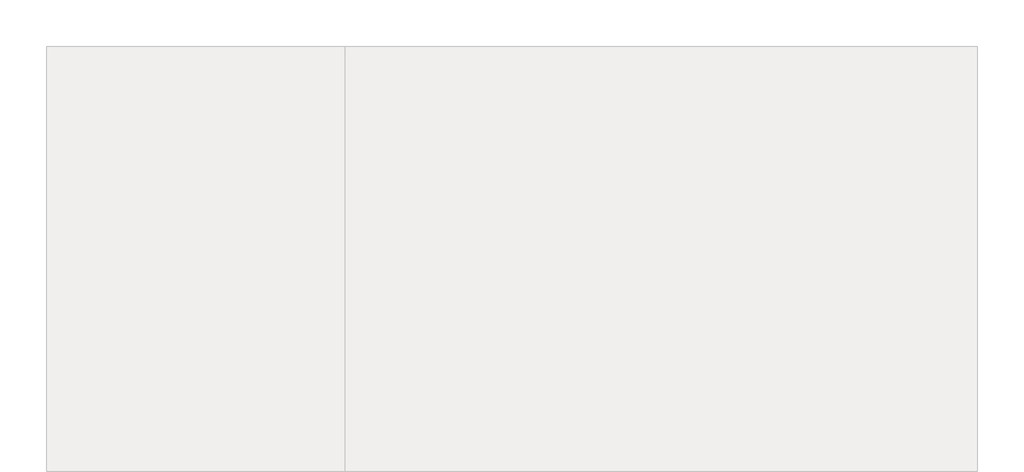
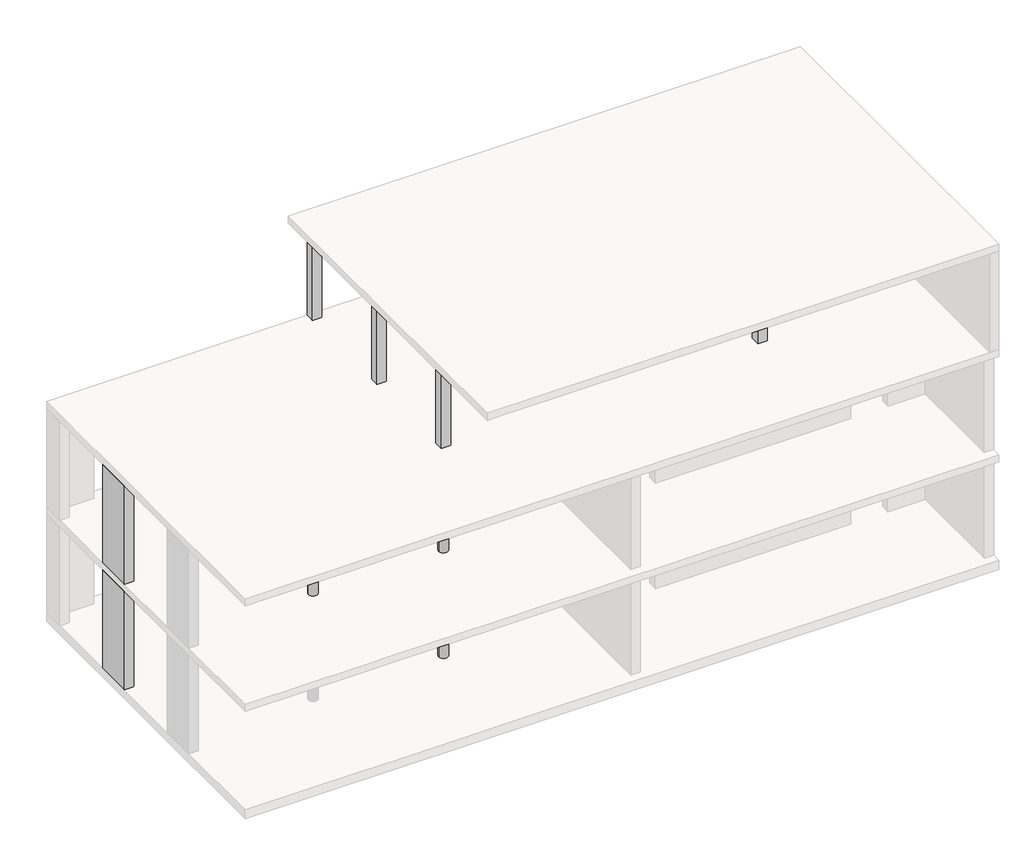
# Not in any storey, part 2 of 2: 19 columns, 10 beams.
"""IFC4 building model written with IfcOpenShell, lengths in millimetres."""

from ifc_helpers import new_model, si_unit, point, frame, frame_2d, origin, origin_with_axes, place, context, project, spatial, polyline, circle_curve, trimmed, segment, composite_curve, outline, extrude, faceted_brep, element, save
from ifc_brep_helpers import plane_surface, revolved_surface, advanced_brep

model = new_model("IFC4")

# Units and contexts
model_context = context("Model", 3, world=origin())
ifc_project = project(units=[si_unit("LENGTHUNIT", "METRE", prefix="MILLI")], contexts=[model_context])

# Site, building
site = spatial("IfcSite", under=ifc_project)
building = spatial("IfcBuilding", under=site)

# Beams
placement = place(None, origin())
element("IfcBeam", 1, ObjectType="STB Träger - rechteckig : STB 250 x 500", at=placement, inside=building, context=model_context, shape_type="AdvancedBrep", body=[
    advanced_brep(
    [(125.0, -3125.0, 2800.0), (125.0, -3125.0, 2500.0), (3500.0, -3125.0, 2500.0), (7000.0, -3125.0, 2500.0), (7000.0, -3125.0, 2800.0), (6875.0, -3000.0, 2500.0), (3625.0, -3000.0, 2500.0), (3500.0, -2875.0, 2500.0), (7000.0, -2875.0, 2500.0), (125.0, -2875.0, 2500.0), (125.0, -2875.0, 2800.0), (7000.0, -2875.0, 2800.0), (6875.0, -3000.0, 2800.0), (3375.0, -3000.0, 2500.0), (3375.0, -3000.0, 2800.0), (3625.0, -3000.0, 2800.0), (3500.0, -2875.0, 2800.0)],
    [
        (0, 1),
        (1, 2),
        (2, 3),
        (3, 4),
        (4, 0),
        (5, 3, circle_curve(frame((7000.0, -3000.0, 2500.0), z_axis=(0.0, 0.0, 1.0), x_axis=(1.0, 0.0, 0.0)), 125.0)),
        (2, 6, circle_curve(frame((3500.0, -3000.0, 2500.0), z_axis=(0.0, 0.0, 1.0), x_axis=(1.0, 0.0, 0.0)), 125.0)),
        (6, 7, circle_curve(frame((3500.0, -3000.0, 2500.0), z_axis=(0.0, 0.0, 1.0), x_axis=(1.0, 0.0, 0.0)), 125.0)),
        (7, 8),
        (8, 5, circle_curve(frame((7000.0, -3000.0, 2500.0), z_axis=(0.0, 0.0, 1.0), x_axis=(1.0, 0.0, 0.0)), 125.0)),
        (9, 10),
        (10, 11),
        (11, 8),
        (7, 9),
        (5, 12),
        (12, 4, circle_curve(frame((7000.0, -3000.0, 2800.0), z_axis=(0.0, 0.0, 1.0), x_axis=(1.0, 0.0, 0.0)), 125.0)),
        (11, 12, circle_curve(frame((7000.0, -3000.0, 2800.0), z_axis=(0.0, 0.0, 1.0), x_axis=(1.0, 0.0, 0.0)), 125.0)),
        (0, 10),
        (9, 1),
        (13, 14),
        (14, 15, circle_curve(frame((3500.0, -3000.0, 2800.0), z_axis=(0.0, 0.0, 1.0), x_axis=(1.0, 0.0, 0.0)), 125.0)),
        (15, 6),
        (2, 13, circle_curve(frame((3500.0, -3000.0, 2500.0), z_axis=(0.0, 0.0, -1.0), x_axis=(1.0, 0.0, 0.0)), 125.0)),
        (13, 7, circle_curve(frame((3500.0, -3000.0, 2500.0), z_axis=(0.0, 0.0, -1.0), x_axis=(1.0, 0.0, 0.0)), 125.0)),
        (15, 16, circle_curve(frame((3500.0, -3000.0, 2800.0), z_axis=(0.0, 0.0, 1.0), x_axis=(1.0, 0.0, 0.0)), 125.0)),
        (16, 14, circle_curve(frame((3500.0, -3000.0, 2800.0), z_axis=(0.0, 0.0, 1.0), x_axis=(1.0, 0.0, 0.0)), 125.0)),
    ],
    [
        plane_surface(frame((6862.3, -3125.0, 3000.0), z_axis=(0.0, -1.0, 0.0), x_axis=(-1.0, 0.0, 0.0))),
        plane_surface(frame((6862.3, -3125.0, 2500.0), z_axis=(0.0, 0.0, -1.0), x_axis=(-1.0, 0.0, 0.0))),
        plane_surface(frame((6862.3, -2875.0, 2500.0), z_axis=(0.0, 1.0, 0.0), x_axis=(-1.0, 0.0, 0.0))),
        revolved_surface(polyline([(7125.0, -3000.0, 2800.0), (7125.0, -3000.0, 2500.0)]), (7000.0, -3000.0, 0.0), (0.0, 0.0, 1.0)),
        plane_surface(frame((125.0, -3500.0, 2800.0), z_axis=(-1.0, 0.0, 0.0), x_axis=(0.0, 0.0, -1.0))),
        revolved_surface(polyline([(3625.0, -3000.0, 2800.0), (3625.0, -3000.0, 2500.0)]), (3500.0, -3000.0, 0.0), (0.0, 0.0, 1.0)),
        plane_surface(frame((20125.0, 125.0, 2800.0), z_axis=(0.0, 0.0, 1.0), x_axis=(0.0, -1.0, 0.0))),
    ],
    [
        (0, [[1, 2, 3, 4, 5]]),
        (1, [[6, -3, 7, 8, 9, 10]]),
        (2, [[11, 12, 13, -9, 14]]),
        (3, [[15, 16, -4, -6]]),
        (3, [[-15, -10, -13, 17]]),
        (4, [[-1, 18, -11, 19]]),
        (5, [[20, 21, 22, -7, 23]]),
        (5, [[-20, 24, -8, -22, 25, 26]]),
        (6, [[-5, -16, -17, -12, -18], [-21, -26, -25]]),
        (1, [[-19, -14, -24, -23, -2]]),
    ],
),
])
element("IfcBeam", 2, ObjectType="STB Träger - rechteckig : STB 250 x 500", at=placement, inside=building, context=model_context, shape_type="AdvancedBrep", body=[
    advanced_brep(
    [(7000.0, -3125.0, 2500.0), (10375.0, -3125.0, 2500.0), (10375.0, -3125.0, 2800.0), (7000.0, -3125.0, 2800.0), (7125.0, -3000.0, 2500.0), (7000.0, -2875.0, 2500.0), (10375.0, -2875.0, 2500.0), (7000.0, -2875.0, 2800.0), (10375.0, -2875.0, 2800.0), (7125.0, -3000.0, 2800.0)],
    [
        (0, 1),
        (1, 2),
        (2, 3),
        (3, 0),
        (0, 4, circle_curve(frame((7000.0, -3000.0, 2500.0), z_axis=(0.0, 0.0, 1.0), x_axis=(1.0, 0.0, 0.0)), 125.0)),
        (4, 5, circle_curve(frame((7000.0, -3000.0, 2500.0), z_axis=(0.0, 0.0, 1.0), x_axis=(1.0, 0.0, 0.0)), 125.0)),
        (5, 6),
        (6, 1),
        (5, 7),
        (7, 8),
        (8, 6),
        (9, 4),
        (3, 9, circle_curve(frame((7000.0, -3000.0, 2800.0), z_axis=(0.0, 0.0, 1.0), x_axis=(1.0, 0.0, 0.0)), 125.0)),
        (9, 7, circle_curve(frame((7000.0, -3000.0, 2800.0), z_axis=(0.0, 0.0, 1.0), x_axis=(1.0, 0.0, 0.0)), 125.0)),
        (8, 2),
    ],
    [
        plane_surface(frame((10362.3, -3125.0, 2750.0), z_axis=(0.0, -1.0, 0.0), x_axis=(0.0, 0.0, -1.0))),
        plane_surface(frame((10362.3, -3000.0, 2500.0), z_axis=(0.0, 0.0, -1.0), x_axis=(0.0, 1.0, 0.0))),
        plane_surface(frame((10362.3, -2875.0, 2750.0), z_axis=(0.0, 1.0, 0.0), x_axis=(0.0, 0.0, 1.0))),
        revolved_surface(polyline([(7125.0, -3000.0, 2800.0), (7125.0, -3000.0, 2500.0)]), (7000.0, -3000.0, 0.0), (0.0, 0.0, 1.0)),
        plane_surface(frame((10375.0, 0.0, 0.0), z_axis=(1.0, 0.0, 0.0), x_axis=(0.0, -1.0, 0.0))),
        plane_surface(frame((20125.0, 125.0, 2800.0), z_axis=(0.0, 0.0, 1.0), x_axis=(0.0, -1.0, 0.0))),
    ],
    [
        (0, [[1, 2, 3, 4]]),
        (1, [[5, 6, 7, 8, -1]]),
        (2, [[-7, 9, 10, 11]]),
        (3, [[12, -5, -4, 13]]),
        (3, [[-12, 14, -9, -6]]),
        (4, [[-2, -8, -11, 15]]),
        (5, [[-3, -15, -10, -14, -13]]),
    ],
),
])
element("IfcBeam", 3, ObjectType="STB Träger - rechteckig : STB 250 x 500", at=placement, inside=building, context=model_context, shape_type="AdvancedBrep", body=[
    advanced_brep(
    [(125.0, -6125.0, 2800.0), (125.0, -6125.0, 2500.0), (3500.0, -6125.0, 2500.0), (7000.0, -6125.0, 2500.0), (7000.0, -6125.0, 2800.0), (6875.0, -6000.0, 2500.0), (3625.0, -6000.0, 2500.0), (3500.0, -5875.0, 2500.0), (7000.0, -5875.0, 2500.0), (125.0, -5875.0, 2500.0), (125.0, -5875.0, 2800.0), (7000.0, -5875.0, 2800.0), (6875.0, -6000.0, 2800.0), (3375.0, -6000.0, 2500.0), (3375.0, -6000.0, 2800.0), (3625.0, -6000.0, 2800.0), (3500.0, -5875.0, 2800.0)],
    [
        (0, 1),
        (1, 2),
        (2, 3),
        (3, 4),
        (4, 0),
        (5, 3, circle_curve(frame((7000.0, -6000.0, 2500.0), z_axis=(0.0, 0.0, 1.0), x_axis=(1.0, 0.0, 0.0)), 125.0)),
        (2, 6, circle_curve(frame((3500.0, -6000.0, 2500.0), z_axis=(0.0, 0.0, 1.0), x_axis=(1.0, 0.0, 0.0)), 125.0)),
        (6, 7, circle_curve(frame((3500.0, -6000.0, 2500.0), z_axis=(0.0, 0.0, 1.0), x_axis=(1.0, 0.0, 0.0)), 125.0)),
        (7, 8),
        (8, 5, circle_curve(frame((7000.0, -6000.0, 2500.0), z_axis=(0.0, 0.0, 1.0), x_axis=(1.0, 0.0, 0.0)), 125.0)),
        (9, 10),
        (10, 11),
        (11, 8),
        (7, 9),
        (5, 12),
        (12, 4, circle_curve(frame((7000.0, -6000.0, 2800.0), z_axis=(0.0, 0.0, 1.0), x_axis=(1.0, 0.0, 0.0)), 125.0)),
        (11, 12, circle_curve(frame((7000.0, -6000.0, 2800.0), z_axis=(0.0, 0.0, 1.0), x_axis=(1.0, 0.0, 0.0)), 125.0)),
        (0, 10),
        (9, 1),
        (13, 14),
        (14, 15, circle_curve(frame((3500.0, -6000.0, 2800.0), z_axis=(0.0, 0.0, 1.0), x_axis=(1.0, 0.0, 0.0)), 125.0)),
        (15, 6),
        (2, 13, circle_curve(frame((3500.0, -6000.0, 2500.0), z_axis=(0.0, 0.0, -1.0), x_axis=(1.0, 0.0, 0.0)), 125.0)),
        (13, 7, circle_curve(frame((3500.0, -6000.0, 2500.0), z_axis=(0.0, 0.0, -1.0), x_axis=(1.0, 0.0, 0.0)), 125.0)),
        (15, 16, circle_curve(frame((3500.0, -6000.0, 2800.0), z_axis=(0.0, 0.0, 1.0), x_axis=(1.0, 0.0, 0.0)), 125.0)),
        (16, 14, circle_curve(frame((3500.0, -6000.0, 2800.0), z_axis=(0.0, 0.0, 1.0), x_axis=(1.0, 0.0, 0.0)), 125.0)),
    ],
    [
        plane_surface(frame((6862.3, -6125.0, 3000.0), z_axis=(0.0, -1.0, 0.0), x_axis=(-1.0, 0.0, 0.0))),
        plane_surface(frame((6862.3, -6125.0, 2500.0), z_axis=(0.0, 0.0, -1.0), x_axis=(-1.0, 0.0, 0.0))),
        plane_surface(frame((6862.3, -5875.0, 2500.0), z_axis=(0.0, 1.0, 0.0), x_axis=(-1.0, 0.0, 0.0))),
        revolved_surface(polyline([(7125.0, -6000.0, 2800.0), (7125.0, -6000.0, 2500.0)]), (7000.0, -6000.0, 0.0), (0.0, 0.0, 1.0)),
        plane_surface(frame((125.0, -6500.0, 2800.0), z_axis=(-1.0, 0.0, 0.0), x_axis=(0.0, 0.0, -1.0))),
        revolved_surface(polyline([(3625.0, -6000.0, 2800.0), (3625.0, -6000.0, 2500.0)]), (3500.0, -6000.0, 0.0), (0.0, 0.0, 1.0)),
        plane_surface(frame((20125.0, 125.0, 2800.0), z_axis=(0.0, 0.0, 1.0), x_axis=(0.0, -1.0, 0.0))),
    ],
    [
        (0, [[1, 2, 3, 4, 5]]),
        (1, [[6, -3, 7, 8, 9, 10]]),
        (2, [[11, 12, 13, -9, 14]]),
        (3, [[15, 16, -4, -6]]),
        (3, [[-15, -10, -13, 17]]),
        (4, [[-1, 18, -11, 19]]),
        (5, [[20, 21, 22, -7, 23]]),
        (5, [[-20, 24, -8, -22, 25, 26]]),
        (6, [[-5, -16, -17, -12, -18], [-21, -26, -25]]),
        (1, [[-19, -14, -24, -23, -2]]),
    ],
),
])
element("IfcBeam", 4, ObjectType="STB Träger - rechteckig : STB 250 x 500", at=placement, inside=building, context=model_context, shape_type="SweptSolid", body=[
    extrude(outline(composite_curve([segment(trimmed(circle_curve(frame_2d((7000.0, -6000.0)), 125.0), [point((7000.0, -6125.0))], [point((7125.0, -6000.0))], True, "CARTESIAN"), True, "CONTINUOUS"), segment(trimmed(circle_curve(frame_2d((7000.0, -6000.0)), 125.0), [point((7125.0, -6000.0))], [point((7000.0, -5875.0))], True, "CARTESIAN"), True, "CONTINUOUS"), segment(polyline([(7000.0, -5875.0), (10375.0, -5875.0), (10375.0, -6125.0), (7000.0, -6125.0)]), True, "CONTINUOUS")], self_intersect=False)), frame((0.0, 0.0, 2500.0), z_axis=(0.0, 0.0, 1.0), x_axis=(1.0, 0.0, 0.0)), (0.0, 0.0, 1.0), 300.0),
])
element("IfcBeam", 5, ObjectType="STB Träger - rechteckig : STB 250 x 500", at=placement, inside=building, context=model_context, shape_type="AdvancedBrep", body=[
    advanced_brep(
    [(125.0, -3125.0, 5800.0), (125.0, -3125.0, 5500.0), (3500.0, -3125.0, 5500.0), (7000.0, -3125.0, 5500.0), (7000.0, -3125.0, 5800.0), (6875.0, -3000.0, 5500.0), (3625.0, -3000.0, 5500.0), (3500.0, -2875.0, 5500.0), (7000.0, -2875.0, 5500.0), (125.0, -2875.0, 5500.0), (125.0, -2875.0, 5800.0), (7000.0, -2875.0, 5800.0), (6875.0, -3000.0, 5800.0), (3375.0, -3000.0, 5500.0), (3375.0, -3000.0, 5800.0), (3625.0, -3000.0, 5800.0), (3500.0, -2875.0, 5800.0)],
    [
        (0, 1),
        (1, 2),
        (2, 3),
        (3, 4),
        (4, 0),
        (5, 3, circle_curve(frame((7000.0, -3000.0, 5500.0), z_axis=(0.0, 0.0, 1.0), x_axis=(1.0, 0.0, 0.0)), 125.0)),
        (2, 6, circle_curve(frame((3500.0, -3000.0, 5500.0), z_axis=(0.0, 0.0, 1.0), x_axis=(1.0, 0.0, 0.0)), 125.0)),
        (6, 7, circle_curve(frame((3500.0, -3000.0, 5500.0), z_axis=(0.0, 0.0, 1.0), x_axis=(1.0, 0.0, 0.0)), 125.0)),
        (7, 8),
        (8, 5, circle_curve(frame((7000.0, -3000.0, 5500.0), z_axis=(0.0, 0.0, 1.0), x_axis=(1.0, 0.0, 0.0)), 125.0)),
        (9, 10),
        (10, 11),
        (11, 8),
        (7, 9),
        (5, 12),
        (12, 4, circle_curve(frame((7000.0, -3000.0, 5800.0), z_axis=(0.0, 0.0, 1.0), x_axis=(1.0, 0.0, 0.0)), 125.0)),
        (11, 12, circle_curve(frame((7000.0, -3000.0, 5800.0), z_axis=(0.0, 0.0, 1.0), x_axis=(1.0, 0.0, 0.0)), 125.0)),
        (0, 10),
        (9, 1),
        (13, 14),
        (14, 15, circle_curve(frame((3500.0, -3000.0, 5800.0), z_axis=(0.0, 0.0, 1.0), x_axis=(1.0, 0.0, 0.0)), 125.0)),
        (15, 6),
        (2, 13, circle_curve(frame((3500.0, -3000.0, 5500.0), z_axis=(0.0, 0.0, -1.0), x_axis=(1.0, 0.0, 0.0)), 125.0)),
        (13, 7, circle_curve(frame((3500.0, -3000.0, 5500.0), z_axis=(0.0, 0.0, -1.0), x_axis=(1.0, 0.0, 0.0)), 125.0)),
        (15, 16, circle_curve(frame((3500.0, -3000.0, 5800.0), z_axis=(0.0, 0.0, 1.0), x_axis=(1.0, 0.0, 0.0)), 125.0)),
        (16, 14, circle_curve(frame((3500.0, -3000.0, 5800.0), z_axis=(0.0, 0.0, 1.0), x_axis=(1.0, 0.0, 0.0)), 125.0)),
    ],
    [
        plane_surface(frame((6862.3, -3125.0, 6000.0), z_axis=(0.0, -1.0, 0.0), x_axis=(-1.0, 0.0, 0.0))),
        plane_surface(frame((6862.3, -3125.0, 5500.0), z_axis=(0.0, 0.0, -1.0), x_axis=(-1.0, 0.0, 0.0))),
        plane_surface(frame((6862.3, -2875.0, 5500.0), z_axis=(0.0, 1.0, 0.0), x_axis=(-1.0, 0.0, 0.0))),
        revolved_surface(polyline([(7125.0, -3000.0, 5800.0), (7125.0, -3000.0, 5500.0)]), (7000.0, -3000.0, 3000.0), (0.0, 0.0, 1.0)),
        plane_surface(frame((125.0, -3500.0, 5800.0), z_axis=(-1.0, 0.0, 0.0), x_axis=(0.0, 0.0, -1.0))),
        revolved_surface(polyline([(3625.0, -3000.0, 5800.0), (3625.0, -3000.0, 5500.0)]), (3500.0, -3000.0, 3000.0), (0.0, 0.0, 1.0)),
        plane_surface(frame((-125.0, -9125.0, 5800.0), z_axis=(0.0, 0.0, 1.0), x_axis=(-1.0, 0.0, 0.0))),
    ],
    [
        (0, [[1, 2, 3, 4, 5]]),
        (1, [[6, -3, 7, 8, 9, 10]]),
        (2, [[11, 12, 13, -9, 14]]),
        (3, [[15, 16, -4, -6]]),
        (3, [[-15, -10, -13, 17]]),
        (4, [[-1, 18, -11, 19]]),
        (5, [[20, 21, 22, -7, 23]]),
        (5, [[-20, 24, -8, -22, 25, 26]]),
        (6, [[-5, -16, -17, -12, -18], [-21, -26, -25]]),
        (1, [[-19, -14, -24, -23, -2]]),
    ],
),
])
element("IfcBeam", 6, ObjectType="STB Träger - rechteckig : STB 250 x 500", at=placement, inside=building, context=model_context, shape_type="AdvancedBrep", body=[
    advanced_brep(
    [(7000.0, -3125.0, 5500.0), (10375.0, -3125.0, 5500.0), (10375.0, -3125.0, 5800.0), (7000.0, -3125.0, 5800.0), (7125.0, -3000.0, 5500.0), (7000.0, -2875.0, 5500.0), (10375.0, -2875.0, 5500.0), (7000.0, -2875.0, 5800.0), (10375.0, -2875.0, 5800.0), (7125.0, -3000.0, 5800.0)],
    [
        (0, 1),
        (1, 2),
        (2, 3),
        (3, 0),
        (0, 4, circle_curve(frame((7000.0, -3000.0, 5500.0), z_axis=(0.0, 0.0, 1.0), x_axis=(1.0, 0.0, 0.0)), 125.0)),
        (4, 5, circle_curve(frame((7000.0, -3000.0, 5500.0), z_axis=(0.0, 0.0, 1.0), x_axis=(1.0, 0.0, 0.0)), 125.0)),
        (5, 6),
        (6, 1),
        (5, 7),
        (7, 8),
        (8, 6),
        (9, 4),
        (3, 9, circle_curve(frame((7000.0, -3000.0, 5800.0), z_axis=(0.0, 0.0, 1.0), x_axis=(1.0, 0.0, 0.0)), 125.0)),
        (9, 7, circle_curve(frame((7000.0, -3000.0, 5800.0), z_axis=(0.0, 0.0, 1.0), x_axis=(1.0, 0.0, 0.0)), 125.0)),
        (8, 2),
    ],
    [
        plane_surface(frame((10362.3, -3125.0, 5750.0), z_axis=(0.0, -1.0, 0.0), x_axis=(0.0, 0.0, -1.0))),
        plane_surface(frame((10362.3, -3000.0, 5500.0), z_axis=(0.0, 0.0, -1.0), x_axis=(0.0, 1.0, 0.0))),
        plane_surface(frame((10362.3, -2875.0, 5750.0), z_axis=(0.0, 1.0, 0.0), x_axis=(0.0, 0.0, 1.0))),
        revolved_surface(polyline([(7125.0, -3000.0, 5800.0), (7125.0, -3000.0, 5500.0)]), (7000.0, -3000.0, 3000.0), (0.0, 0.0, 1.0)),
        plane_surface(frame((10375.0, 0.0, 3000.0), z_axis=(1.0, 0.0, 0.0), x_axis=(0.0, -1.0, 0.0))),
        plane_surface(frame((-125.0, -9125.0, 5800.0), z_axis=(0.0, 0.0, 1.0), x_axis=(-1.0, 0.0, 0.0))),
    ],
    [
        (0, [[1, 2, 3, 4]]),
        (1, [[5, 6, 7, 8, -1]]),
        (2, [[-7, 9, 10, 11]]),
        (3, [[12, -5, -4, 13]]),
        (3, [[-12, 14, -9, -6]]),
        (4, [[-2, -8, -11, 15]]),
        (5, [[-3, -15, -10, -14, -13]]),
    ],
),
])
element("IfcBeam", 7, ObjectType="STB Träger - rechteckig : STB 250 x 500", at=placement, inside=building, context=model_context, shape_type="AdvancedBrep", body=[
    advanced_brep(
    [(125.0, -6125.0, 5800.0), (125.0, -6125.0, 5500.0), (3500.0, -6125.0, 5500.0), (7000.0, -6125.0, 5500.0), (7000.0, -6125.0, 5800.0), (6875.0, -6000.0, 5500.0), (3625.0, -6000.0, 5500.0), (3500.0, -5875.0, 5500.0), (7000.0, -5875.0, 5500.0), (125.0, -5875.0, 5500.0), (125.0, -5875.0, 5800.0), (7000.0, -5875.0, 5800.0), (6875.0, -6000.0, 5800.0), (3375.0, -6000.0, 5500.0), (3375.0, -6000.0, 5800.0), (3625.0, -6000.0, 5800.0), (3500.0, -5875.0, 5800.0)],
    [
        (0, 1),
        (1, 2),
        (2, 3),
        (3, 4),
        (4, 0),
        (5, 3, circle_curve(frame((7000.0, -6000.0, 5500.0), z_axis=(0.0, 0.0, 1.0), x_axis=(1.0, 0.0, 0.0)), 125.0)),
        (2, 6, circle_curve(frame((3500.0, -6000.0, 5500.0), z_axis=(0.0, 0.0, 1.0), x_axis=(1.0, 0.0, 0.0)), 125.0)),
        (6, 7, circle_curve(frame((3500.0, -6000.0, 5500.0), z_axis=(0.0, 0.0, 1.0), x_axis=(1.0, 0.0, 0.0)), 125.0)),
        (7, 8),
        (8, 5, circle_curve(frame((7000.0, -6000.0, 5500.0), z_axis=(0.0, 0.0, 1.0), x_axis=(1.0, 0.0, 0.0)), 125.0)),
        (9, 10),
        (10, 11),
        (11, 8),
        (7, 9),
        (5, 12),
        (12, 4, circle_curve(frame((7000.0, -6000.0, 5800.0), z_axis=(0.0, 0.0, 1.0), x_axis=(1.0, 0.0, 0.0)), 125.0)),
        (11, 12, circle_curve(frame((7000.0, -6000.0, 5800.0), z_axis=(0.0, 0.0, 1.0), x_axis=(1.0, 0.0, 0.0)), 125.0)),
        (0, 10),
        (9, 1),
        (13, 14),
        (14, 15, circle_curve(frame((3500.0, -6000.0, 5800.0), z_axis=(0.0, 0.0, 1.0), x_axis=(1.0, 0.0, 0.0)), 125.0)),
        (15, 6),
        (2, 13, circle_curve(frame((3500.0, -6000.0, 5500.0), z_axis=(0.0, 0.0, -1.0), x_axis=(1.0, 0.0, 0.0)), 125.0)),
        (13, 7, circle_curve(frame((3500.0, -6000.0, 5500.0), z_axis=(0.0, 0.0, -1.0), x_axis=(1.0, 0.0, 0.0)), 125.0)),
        (15, 16, circle_curve(frame((3500.0, -6000.0, 5800.0), z_axis=(0.0, 0.0, 1.0), x_axis=(1.0, 0.0, 0.0)), 125.0)),
        (16, 14, circle_curve(frame((3500.0, -6000.0, 5800.0), z_axis=(0.0, 0.0, 1.0), x_axis=(1.0, 0.0, 0.0)), 125.0)),
    ],
    [
        plane_surface(frame((6862.3, -6125.0, 6000.0), z_axis=(0.0, -1.0, 0.0), x_axis=(-1.0, 0.0, 0.0))),
        plane_surface(frame((6862.3, -6125.0, 5500.0), z_axis=(0.0, 0.0, -1.0), x_axis=(-1.0, 0.0, 0.0))),
        plane_surface(frame((6862.3, -5875.0, 5500.0), z_axis=(0.0, 1.0, 0.0), x_axis=(-1.0, 0.0, 0.0))),
        revolved_surface(polyline([(7125.0, -6000.0, 5800.0), (7125.0, -6000.0, 5500.0)]), (7000.0, -6000.0, 3000.0), (0.0, 0.0, 1.0)),
        plane_surface(frame((125.0, -6500.0, 5800.0), z_axis=(-1.0, 0.0, 0.0), x_axis=(0.0, 0.0, -1.0))),
        revolved_surface(polyline([(3625.0, -6000.0, 5800.0), (3625.0, -6000.0, 5500.0)]), (3500.0, -6000.0, 3000.0), (0.0, 0.0, 1.0)),
        plane_surface(frame((-125.0, -9125.0, 5800.0), z_axis=(0.0, 0.0, 1.0), x_axis=(-1.0, 0.0, 0.0))),
    ],
    [
        (0, [[1, 2, 3, 4, 5]]),
        (1, [[6, -3, 7, 8, 9, 10]]),
        (2, [[11, 12, 13, -9, 14]]),
        (3, [[15, 16, -4, -6]]),
        (3, [[-15, -10, -13, 17]]),
        (4, [[-1, 18, -11, 19]]),
        (5, [[20, 21, 22, -7, 23]]),
        (5, [[-20, 24, -8, -22, 25, 26]]),
        (6, [[-5, -16, -17, -12, -18], [-21, -26, -25]]),
        (1, [[-19, -14, -24, -23, -2]]),
    ],
),
])
element("IfcBeam", 8, ObjectType="STB Träger - rechteckig : STB 250 x 500", at=placement, inside=building, context=model_context, shape_type="SweptSolid", body=[
    extrude(outline(composite_curve([segment(trimmed(circle_curve(frame_2d((7000.0, -6000.0)), 125.0), [point((7000.0, -6125.0))], [point((7125.0, -6000.0))], True, "CARTESIAN"), True, "CONTINUOUS"), segment(trimmed(circle_curve(frame_2d((7000.0, -6000.0)), 125.0), [point((7125.0, -6000.0))], [point((7000.0, -5875.0))], True, "CARTESIAN"), True, "CONTINUOUS"), segment(polyline([(7000.0, -5875.0), (10375.0, -5875.0), (10375.0, -6125.0), (7000.0, -6125.0)]), True, "CONTINUOUS")], self_intersect=False)), frame((0.0, 0.0, 5500.0), z_axis=(0.0, 0.0, 1.0), x_axis=(1.0, 0.0, 0.0)), (0.0, 0.0, 1.0), 300.0),
])
element("IfcBeam", 9, ObjectType="STB Träger - rechteckig : STB 250 x 500", at=placement, inside=building, context=model_context, shape_type="SweptSolid", body=[
    extrude(outline(polyline([(7125.0, -3125.0), (7125.0, -2875.0), (15375.0, -2875.0), (15375.0, -3125.0), (7125.0, -3125.0)])), frame((0.0, 0.0, 8500.0), z_axis=(0.0, 0.0, 1.0), x_axis=(1.0, 0.0, 0.0)), (0.0, 0.0, 1.0), 300.0),
    extrude(outline(polyline([(19875.0, -2875.0), (19875.0, -3125.0), (15625.0, -3125.0), (15625.0, -2875.0), (19875.0, -2875.0)])), frame((0.0, 0.0, 8500.0), z_axis=(0.0, 0.0, 1.0), x_axis=(1.0, 0.0, 0.0)), (0.0, 0.0, 1.0), 300.0),
])
element("IfcBeam", 10, ObjectType="STB Träger - rechteckig : STB 250 x 500", at=placement, inside=building, context=model_context, shape_type="SweptSolid", body=[
    extrude(outline(polyline([(7125.0, -6125.0), (7125.0, -5875.0), (15375.0, -5875.0), (15375.0, -6125.0), (7125.0, -6125.0)])), frame((0.0, 0.0, 8500.0), z_axis=(0.0, 0.0, 1.0), x_axis=(1.0, 0.0, 0.0)), (0.0, 0.0, 1.0), 300.0),
    extrude(outline(polyline([(19875.0, -5875.0), (19875.0, -6125.0), (15625.0, -6125.0), (15625.0, -5875.0), (19875.0, -5875.0)])), frame((0.0, 0.0, 8500.0), z_axis=(0.0, 0.0, 1.0), x_axis=(1.0, 0.0, 0.0)), (0.0, 0.0, 1.0), 300.0),
])

# Columns
element("IfcColumn", 11, ObjectType="STB Stütze - rund : STB ø250", at=placement, inside=building, context=model_context, shape_type="SweptSolid", body=[
    extrude(outline(composite_curve([segment(trimmed(circle_curve(frame_2d((3500.0, -3000.0)), 125.0), [point((3375.0, -3000.0))], [point((3625.0, -3000.0))], False, "CARTESIAN"), True, "CONTINUOUS"), segment(trimmed(circle_curve(frame_2d((3500.0, -3000.0)), 125.0), [point((3625.0, -3000.0))], [point((3375.0, -3000.0))], False, "CARTESIAN"), True, "CONTINUOUS")], self_intersect=False)), origin_with_axes(), (0.0, 0.0, 1.0), 2800.0),
])
element("IfcColumn", 12, ObjectType="STB Stütze - rund : STB ø250", at=placement, inside=building, context=model_context, shape_type="SweptSolid", body=[
    extrude(outline(composite_curve([segment(trimmed(circle_curve(frame_2d((7000.0, -3000.0)), 125.0), [point((6875.0, -3000.0))], [point((7125.0, -3000.0))], False, "CARTESIAN"), True, "CONTINUOUS"), segment(trimmed(circle_curve(frame_2d((7000.0, -3000.0)), 125.0), [point((7125.0, -3000.0))], [point((6875.0, -3000.0))], False, "CARTESIAN"), True, "CONTINUOUS")], self_intersect=False)), origin_with_axes(), (0.0, 0.0, 1.0), 2800.0),
])
element("IfcColumn", 13, ObjectType="STB Stütze - rund : STB ø250", at=placement, inside=building, context=model_context, shape_type="SweptSolid", body=[
    extrude(outline(composite_curve([segment(trimmed(circle_curve(frame_2d((7000.0, -6000.0)), 125.0), [point((6875.0, -6000.0))], [point((7125.0, -6000.0))], False, "CARTESIAN"), True, "CONTINUOUS"), segment(trimmed(circle_curve(frame_2d((7000.0, -6000.0)), 125.0), [point((7125.0, -6000.0))], [point((6875.0, -6000.0))], False, "CARTESIAN"), True, "CONTINUOUS")], self_intersect=False)), origin_with_axes(), (0.0, 0.0, 1.0), 2800.0),
])
element("IfcColumn", 14, ObjectType="STB Stütze - rund : STB ø250", at=placement, inside=building, context=model_context, shape_type="SweptSolid", body=[
    extrude(outline(composite_curve([segment(trimmed(circle_curve(frame_2d((3500.0, -3000.0)), 125.0), [point((3375.0, -3000.0))], [point((3625.0, -3000.0))], False, "CARTESIAN"), True, "CONTINUOUS"), segment(trimmed(circle_curve(frame_2d((3500.0, -3000.0)), 125.0), [point((3625.0, -3000.0))], [point((3375.0, -3000.0))], False, "CARTESIAN"), True, "CONTINUOUS")], self_intersect=False)), frame((0.0, 0.0, 3000.0), z_axis=(0.0, 0.0, 1.0), x_axis=(1.0, 0.0, 0.0)), (0.0, 0.0, 1.0), 2800.0),
])
element("IfcColumn", 15, ObjectType="STB Stütze - rund : STB ø250", at=placement, inside=building, context=model_context, shape_type="SweptSolid", body=[
    extrude(outline(composite_curve([segment(trimmed(circle_curve(frame_2d((7000.0, -3000.0)), 125.0), [point((6875.0, -3000.0))], [point((7125.0, -3000.0))], False, "CARTESIAN"), True, "CONTINUOUS"), segment(trimmed(circle_curve(frame_2d((7000.0, -3000.0)), 125.0), [point((7125.0, -3000.0))], [point((6875.0, -3000.0))], False, "CARTESIAN"), True, "CONTINUOUS")], self_intersect=False)), frame((0.0, 0.0, 3000.0), z_axis=(0.0, 0.0, 1.0), x_axis=(1.0, 0.0, 0.0)), (0.0, 0.0, 1.0), 2800.0),
])
element("IfcColumn", 16, ObjectType="STB Stütze - rund : STB ø250", at=placement, inside=building, context=model_context, shape_type="SweptSolid", body=[
    extrude(outline(composite_curve([segment(trimmed(circle_curve(frame_2d((7000.0, -6000.0)), 125.0), [point((6875.0, -6000.0))], [point((7125.0, -6000.0))], False, "CARTESIAN"), True, "CONTINUOUS"), segment(trimmed(circle_curve(frame_2d((7000.0, -6000.0)), 125.0), [point((7125.0, -6000.0))], [point((6875.0, -6000.0))], False, "CARTESIAN"), True, "CONTINUOUS")], self_intersect=False)), frame((0.0, 0.0, 3000.0), z_axis=(0.0, 0.0, 1.0), x_axis=(1.0, 0.0, 0.0)), (0.0, 0.0, 1.0), 2800.0),
])
element("IfcColumn", 17, ObjectType="STB Stütze - rund : STB ø250", at=placement, inside=building, context=model_context, shape_type="SweptSolid", body=[
    extrude(outline(composite_curve([segment(trimmed(circle_curve(frame_2d((3500.0, -6000.0)), 125.0), [point((3375.0, -6000.0))], [point((3625.0, -6000.0))], False, "CARTESIAN"), True, "CONTINUOUS"), segment(trimmed(circle_curve(frame_2d((3500.0, -6000.0)), 125.0), [point((3625.0, -6000.0))], [point((3375.0, -6000.0))], False, "CARTESIAN"), True, "CONTINUOUS")], self_intersect=False)), frame((0.0, 0.0, 3000.0), z_axis=(0.0, 0.0, 1.0), x_axis=(1.0, 0.0, 0.0)), (0.0, 0.0, 1.0), 2800.0),
])
element("IfcColumn", 18, ObjectType="STB Stütze - rechteckig : STB 1000 x 250", at=placement, inside=building, context=model_context, shape_type="SweptSolid", body=[
    extrude(outline(polyline([(4000.0, 125.0), (4000.0, -125.0), (3000.0, -125.0), (3000.0, 125.0), (4000.0, 125.0)])), origin_with_axes(), (0.0, 0.0, 1.0), 2800.0),
])
element("IfcColumn", 19, ObjectType="STB Stütze - rechteckig : STB 1000 x 250", at=placement, inside=building, context=model_context, shape_type="SweptSolid", body=[
    extrude(outline(polyline([(7500.0, 125.0), (7500.0, -125.0), (6500.0, -125.0), (6500.0, 125.0), (7500.0, 125.0)])), origin_with_axes(), (0.0, 0.0, 1.0), 2800.0),
])
element("IfcColumn", 20, ObjectType="STB Stütze - rechteckig : STB 1000 x 250", at=placement, inside=building, context=model_context, shape_type="SweptSolid", body=[
    extrude(outline(polyline([(-125.0, -2500.0), (125.0, -2500.0), (125.0, -3500.0), (-125.0, -3500.0), (-125.0, -2500.0)])), origin_with_axes(), (0.0, 0.0, 1.0), 2800.0),
])
element("IfcColumn", 21, ObjectType="STB Stütze - rechteckig : STB 1000 x 250", at=placement, inside=building, context=model_context, shape_type="SweptSolid", body=[
    extrude(outline(polyline([(4000.0, 125.0), (4000.0, -125.0), (3000.0, -125.0), (3000.0, 125.0), (4000.0, 125.0)])), frame((0.0, 0.0, 3000.0), z_axis=(0.0, 0.0, 1.0), x_axis=(1.0, 0.0, 0.0)), (0.0, 0.0, 1.0), 2800.0),
])
element("IfcColumn", 22, ObjectType="STB Stütze - rechteckig : STB 1000 x 250", at=placement, inside=building, context=model_context, shape_type="SweptSolid", body=[
    extrude(outline(polyline([(7500.0, 125.0), (7500.0, -125.0), (6500.0, -125.0), (6500.0, 125.0), (7500.0, 125.0)])), frame((0.0, 0.0, 3000.0), z_axis=(0.0, 0.0, 1.0), x_axis=(1.0, 0.0, 0.0)), (0.0, 0.0, 1.0), 2800.0),
])
element("IfcColumn", 23, ObjectType="STB Stütze - rechteckig : STB 1000 x 250", at=placement, inside=building, context=model_context, shape_type="SweptSolid", body=[
    extrude(outline(polyline([(-125.0, -2500.0), (125.0, -2500.0), (125.0, -3500.0), (-125.0, -3500.0), (-125.0, -2500.0)])), frame((0.0, 0.0, 3000.0), z_axis=(0.0, 0.0, 1.0), x_axis=(1.0, 0.0, 0.0)), (0.0, 0.0, 1.0), 2800.0),
])
element("IfcColumn", 24, ObjectType="STB Stütze - rechteckig : STB 250 x 250", at=placement, inside=building, context=model_context, shape_type="SweptSolid", body=[
    extrude(outline(polyline([(10625.0, 125.0), (10625.0, -125.0), (10375.0, -125.0), (10375.0, 125.0), (10625.0, 125.0)])), frame((0.0, 0.0, 6000.0), z_axis=(0.0, 0.0, 1.0), x_axis=(1.0, 0.0, 0.0)), (0.0, 0.0, 1.0), 2800.0),
])
element("IfcColumn", 25, ObjectType="STB Stütze - rechteckig : STB 250 x 250", at=placement, inside=building, context=model_context, shape_type="SweptSolid", body=[
    extrude(outline(polyline([(7125.0, 125.0), (7125.0, -125.0), (6875.0, -125.0), (6875.0, 125.0), (7125.0, 125.0)])), frame((0.0, 0.0, 6000.0), z_axis=(0.0, 0.0, 1.0), x_axis=(1.0, 0.0, 0.0)), (0.0, 0.0, 1.0), 2800.0),
])
element("IfcColumn", 26, ObjectType="STB Stütze - rechteckig : STB 250 x 250", at=placement, inside=building, context=model_context, shape_type="SweptSolid", body=[
    extrude(outline(polyline([(7125.0, -2875.0), (7125.0, -3125.0), (6875.0, -3125.0), (6875.0, -2875.0), (7125.0, -2875.0)])), frame((0.0, 0.0, 6000.0), z_axis=(0.0, 0.0, 1.0), x_axis=(1.0, 0.0, 0.0)), (0.0, 0.0, 1.0), 2800.0),
])
element("IfcColumn", 27, ObjectType="STB Stütze - rechteckig : STB 250 x 250", at=placement, inside=building, context=model_context, shape_type="SweptSolid", body=[
    extrude(outline(polyline([(7125.0, -5875.0), (7125.0, -6125.0), (6875.0, -6125.0), (6875.0, -5875.0), (7125.0, -5875.0)])), frame((0.0, 0.0, 6000.0), z_axis=(0.0, 0.0, 1.0), x_axis=(1.0, 0.0, 0.0)), (0.0, 0.0, 1.0), 2800.0),
])
element("IfcColumn", 28, ObjectType="STB Stütze - rechteckig : STB 250 x 250", at=placement, inside=building, context=model_context, shape_type="Brep", body=[
    faceted_brep([(15625.0, -2875.0, 8800.0), (15375.0, -2875.0, 8800.0), (15375.0, -3125.0, 8800.0), (15625.0, -3125.0, 8800.0), (15625.0, -2875.0, 6000.0), (15625.0, -3125.0, 6000.0), (15375.0, -3125.0, 6000.0), (15375.0, -2875.0, 6000.0), (15625.0, -2875.0, 8500.0), (15375.0, -2875.0, 8500.0), (15375.0, -3125.0, 8500.0), (15625.0, -3125.0, 8500.0)], [[[0, 1, 2, 3]], [[4, 5, 6, 7]], [[1, 0, 8, 4, 7, 9]], [[2, 1, 9, 7, 6, 10]], [[3, 2, 10, 6, 5, 11]], [[0, 3, 11, 5, 4, 8]]]),
])
element("IfcColumn", 29, ObjectType="STB Stütze - rechteckig : STB 250 x 250", at=placement, inside=building, context=model_context, shape_type="Brep", body=[
    faceted_brep([(15625.0, -5875.0, 8800.0), (15375.0, -5875.0, 8800.0), (15375.0, -6125.0, 8800.0), (15625.0, -6125.0, 8800.0), (15625.0, -5875.0, 6000.0), (15625.0, -6125.0, 6000.0), (15375.0, -6125.0, 6000.0), (15375.0, -5875.0, 6000.0), (15625.0, -5875.0, 8500.0), (15375.0, -5875.0, 8500.0), (15375.0, -6125.0, 8500.0), (15625.0, -6125.0, 8500.0)], [[[0, 1, 2, 3]], [[4, 5, 6, 7]], [[1, 0, 8, 4, 7, 9]], [[2, 1, 9, 7, 6, 10]], [[3, 2, 10, 6, 5, 11]], [[0, 3, 11, 5, 4, 8]]]),
])

save(model, "model.ifc")
